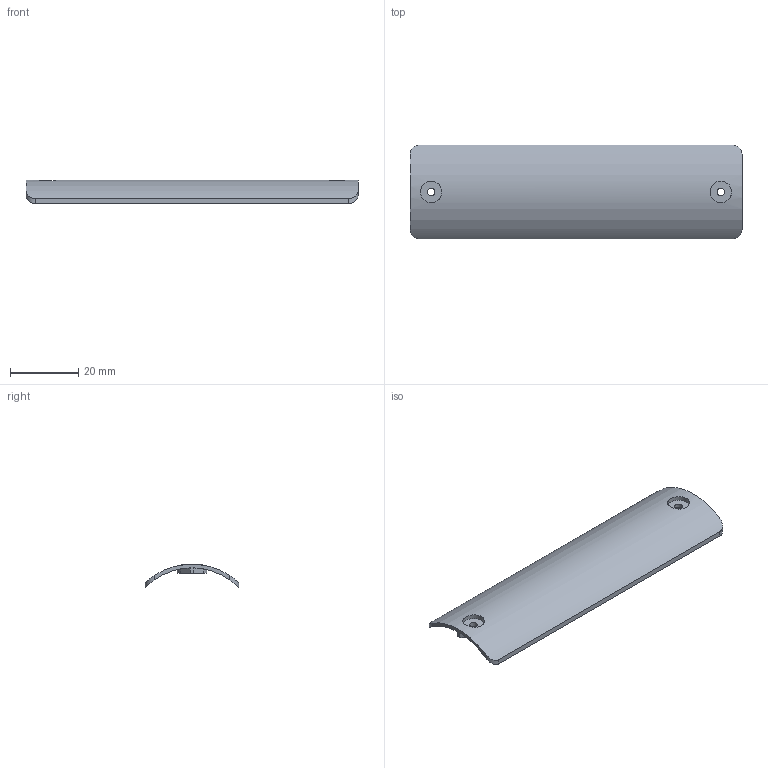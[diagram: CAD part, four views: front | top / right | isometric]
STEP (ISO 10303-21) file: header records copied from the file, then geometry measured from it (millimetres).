
FILE_DESCRIPTION(('SkyG Speed 90B - revision C6B-13 - 2026-10-11','HF-front-hatch'),'2;1');
FILE_NAME('HF-front-hatch_C6B-13','2026-10-11T17:52:53',('Author'),( 'Open CASCADE'),'Open CASCADE STEP processor 7.9','Open CASCADE 7.9' ,'Unknown');
FILE_SCHEMA(('AUTOMOTIVE_DESIGN { 1 0 10303 214 1 1 1 1 }'));
Length unit declared in the file: millimetre
Products named in the file (1): HF-front-hatch C6B-13
Bounding box: 97.4 x 27.4 x 6.98 mm (x, y, z)
Volume: 3350.2 mm3; surface area: 6405.1 mm2
Topology: 1 solids, 1 shells, 24 faces, 57 edges, 38 vertices
Faces by surface type: cylinder 12, plane 12
Full cylindrical faces by diameter (mm): 2.2 x2, 6.3 x2
Entity records: 3207 total; most frequent: CARTESIAN_POINT 2102, DIRECTION 180, ORIENTED_EDGE 114, PCURVE 114, DEFINITIONAL_REPRESENTATION 114, LINE 81, VECTOR 81, EDGE_CURVE 57
